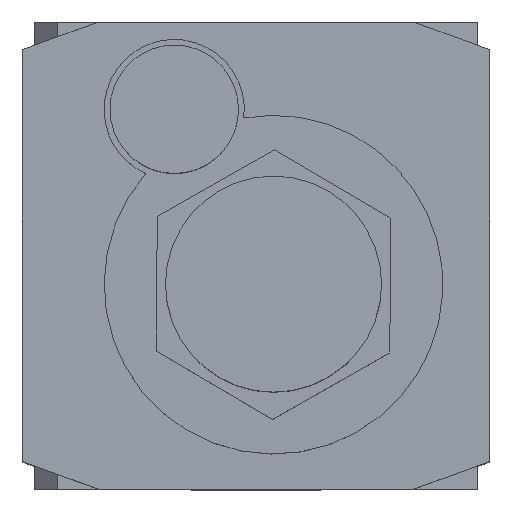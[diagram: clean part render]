
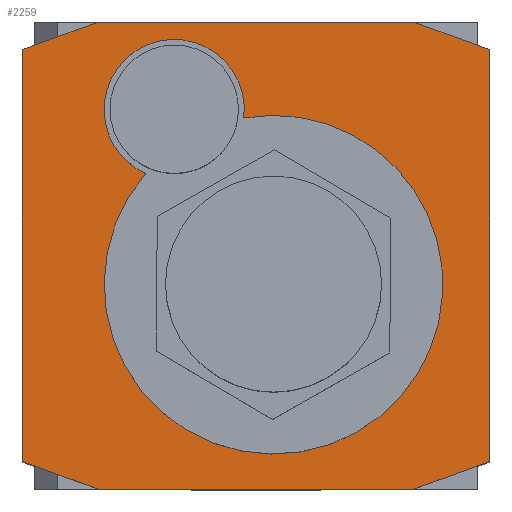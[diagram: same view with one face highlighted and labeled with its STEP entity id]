
A CAD part, top view. The second image highlights one B-rep face of the part: STEP entity #2259.
In plain terms, the highlighted planar face has unit normal (0, 0, 1).
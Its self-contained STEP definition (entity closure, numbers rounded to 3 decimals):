
#1178=CARTESIAN_POINT('',(-12.956,13.225,34.0));
#1179=VERTEX_POINT('',#1178);
#1188=CARTESIAN_POINT('',(-9.439,7.018,34.0));
#1189=VERTEX_POINT('',#1188);
#1190=CARTESIAN_POINT('',(-7.,12.5,34.0));
#1191=DIRECTION('',(0.0,0.0,-1.));
#1192=DIRECTION('',(-0.993,0.121,0.0));
#1193=AXIS2_PLACEMENT_3D('',#1190,#1191,#1192);
#1194=CIRCLE('',#1193,6.);
#1195=EDGE_CURVE('',#1189,#1179,#1194,.T.);
#1220=CARTESIAN_POINT('',(12.439,-12.018,34.0));
#1221=VERTEX_POINT('',#1220);
#1230=CARTESIAN_POINT('',(-1.044,11.775,34.0));
#1231=VERTEX_POINT('',#1230);
#1232=CARTESIAN_POINT('',(1.5,-2.5,34.0));
#1233=DIRECTION('',(0.0,0.0,-1.0));
#1234=DIRECTION('',(0.754,-0.656,0.0));
#1235=AXIS2_PLACEMENT_3D('',#1232,#1233,#1234);
#1236=CIRCLE('',#1235,14.5);
#1237=EDGE_CURVE('',#1231,#1221,#1236,.T.);
#2170=CARTESIAN_POINT('',(0.,0.,34.0));
#2171=DIRECTION('',(0.0,0.0,1.0));
#2172=DIRECTION('',(1.0,0.0,0.0));
#2173=AXIS2_PLACEMENT_3D('',#2170,#2171,#2172);
#2174=PLANE('',#2173);
#2175=CARTESIAN_POINT('',(-13.5,-20.0,34.0));
#2176=VERTEX_POINT('',#2175);
#2177=CARTESIAN_POINT('',(-20.0,-17.634,34.0));
#2178=VERTEX_POINT('',#2177);
#2179=CARTESIAN_POINT('',(-13.5,-20.0,34.0));
#2180=DIRECTION('',(-0.94,0.342,0.0));
#2181=VECTOR('',#2180,6.917);
#2182=LINE('',#2179,#2181);
#2183=EDGE_CURVE('',#2176,#2178,#2182,.T.);
#2184=ORIENTED_EDGE('',*,*,#2183,.F.);
#2185=CARTESIAN_POINT('',(13.5,-20.0,34.0));
#2186=VERTEX_POINT('',#2185);
#2187=CARTESIAN_POINT('',(13.5,-20.0,34.0));
#2188=DIRECTION('',(-1.0,0.0,0.0));
#2189=VECTOR('',#2188,27.);
#2190=LINE('',#2187,#2189);
#2191=EDGE_CURVE('',#2186,#2176,#2190,.T.);
#2192=ORIENTED_EDGE('',*,*,#2191,.F.);
#2193=CARTESIAN_POINT('',(20.0,-17.634,34.0));
#2194=VERTEX_POINT('',#2193);
#2195=CARTESIAN_POINT('',(20.0,-17.634,34.0));
#2196=DIRECTION('',(-0.94,-0.342,0.0));
#2197=VECTOR('',#2196,6.917);
#2198=LINE('',#2195,#2197);
#2199=EDGE_CURVE('',#2194,#2186,#2198,.T.);
#2200=ORIENTED_EDGE('',*,*,#2199,.F.);
#2201=CARTESIAN_POINT('',(20.0,17.634,34.0));
#2202=VERTEX_POINT('',#2201);
#2203=CARTESIAN_POINT('',(20.0,17.634,34.0));
#2204=DIRECTION('',(0.0,-1.0,0.0));
#2205=VECTOR('',#2204,35.268);
#2206=LINE('',#2203,#2205);
#2207=EDGE_CURVE('',#2202,#2194,#2206,.T.);
#2208=ORIENTED_EDGE('',*,*,#2207,.F.);
#2209=CARTESIAN_POINT('',(13.5,20.0,34.0));
#2210=VERTEX_POINT('',#2209);
#2211=CARTESIAN_POINT('',(13.5,20.0,34.0));
#2212=DIRECTION('',(0.94,-0.342,0.0));
#2213=VECTOR('',#2212,6.917);
#2214=LINE('',#2211,#2213);
#2215=EDGE_CURVE('',#2210,#2202,#2214,.T.);
#2216=ORIENTED_EDGE('',*,*,#2215,.F.);
#2217=CARTESIAN_POINT('',(-13.5,20.0,34.0));
#2218=VERTEX_POINT('',#2217);
#2219=CARTESIAN_POINT('',(-13.5,20.0,34.0));
#2220=DIRECTION('',(1.0,0.0,0.0));
#2221=VECTOR('',#2220,27.);
#2222=LINE('',#2219,#2221);
#2223=EDGE_CURVE('',#2218,#2210,#2222,.T.);
#2224=ORIENTED_EDGE('',*,*,#2223,.F.);
#2225=CARTESIAN_POINT('',(-20.0,17.634,34.0));
#2226=VERTEX_POINT('',#2225);
#2227=CARTESIAN_POINT('',(-20.0,17.634,34.0));
#2228=DIRECTION('',(0.94,0.342,0.0));
#2229=VECTOR('',#2228,6.917);
#2230=LINE('',#2227,#2229);
#2231=EDGE_CURVE('',#2226,#2218,#2230,.T.);
#2232=ORIENTED_EDGE('',*,*,#2231,.F.);
#2233=CARTESIAN_POINT('',(-20.0,-17.634,34.0));
#2234=DIRECTION('',(0.0,1.0,0.0));
#2235=VECTOR('',#2234,35.268);
#2236=LINE('',#2233,#2235);
#2237=EDGE_CURVE('',#2178,#2226,#2236,.T.);
#2238=ORIENTED_EDGE('',*,*,#2237,.F.);
#2239=EDGE_LOOP('',(#2184,#2192,#2200,#2208,#2216,#2224,#2232,#2238));
#2240=FACE_OUTER_BOUND('',#2239,.T.);
#2241=ORIENTED_EDGE('',*,*,#1195,.T.);
#2242=CARTESIAN_POINT('',(-7.,12.5,34.0));
#2243=DIRECTION('',(0.0,0.0,-1.));
#2244=DIRECTION('',(-0.993,0.121,0.0));
#2245=AXIS2_PLACEMENT_3D('',#2242,#2243,#2244);
#2246=CIRCLE('',#2245,6.);
#2247=EDGE_CURVE('',#1179,#1231,#2246,.T.);
#2248=ORIENTED_EDGE('',*,*,#2247,.T.);
#2249=ORIENTED_EDGE('',*,*,#1237,.T.);
#2250=CARTESIAN_POINT('',(1.5,-2.5,34.0));
#2251=DIRECTION('',(0.0,0.0,-1.0));
#2252=DIRECTION('',(0.754,-0.656,0.0));
#2253=AXIS2_PLACEMENT_3D('',#2250,#2251,#2252);
#2254=CIRCLE('',#2253,14.5);
#2255=EDGE_CURVE('',#1221,#1189,#2254,.T.);
#2256=ORIENTED_EDGE('',*,*,#2255,.T.);
#2257=EDGE_LOOP('',(#2241,#2248,#2249,#2256));
#2258=FACE_BOUND('',#2257,.T.);
#2259=ADVANCED_FACE('',(#2240,#2258),#2174,.T.);
